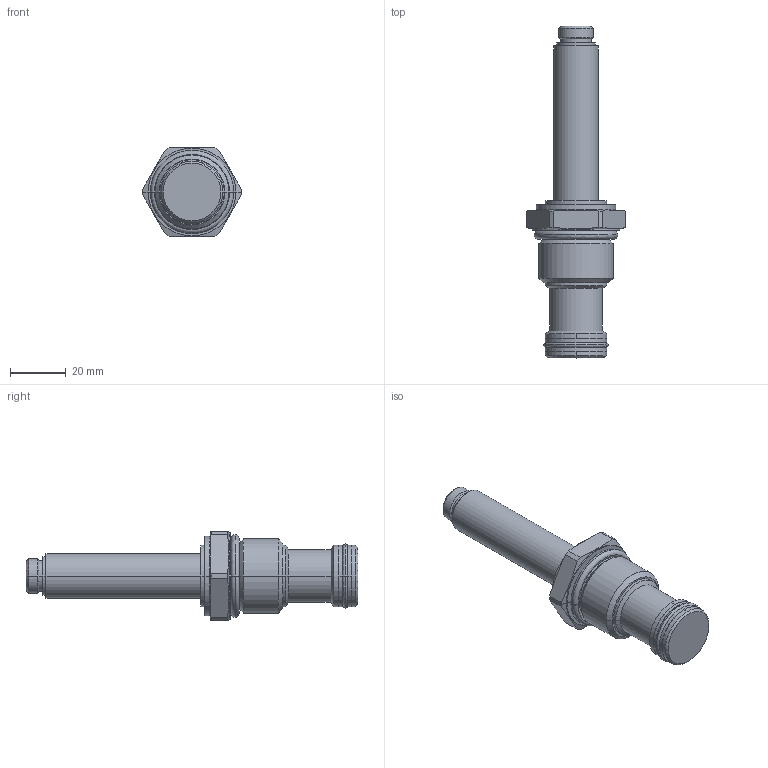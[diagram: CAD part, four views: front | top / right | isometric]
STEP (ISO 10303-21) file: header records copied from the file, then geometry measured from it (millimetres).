
FILE_DESCRIPTION((''),'2;1');
FILE_NAME('5003986_SW0003','2009-03-03T',('JCS'),(''),'PRO/ENGINEER BY PARAMETRIC TECHNOLOGY CORPORATION, 2008010','PRO/ENGINEER BY PARAMETRIC TECHNOLOGY CORPORATION, 2008010','');
FILE_SCHEMA(('CONFIG_CONTROL_DESIGN'));
Length unit declared in the file: inch
Products named in the file (1): 5003986_SW0003
Bounding box: 35.69 x 119.33 x 31.75 mm (x, y, z)
Volume: 39021.8 mm3; surface area: 11342.6 mm2
Topology: 5 solids, 5 shells, 126 faces, 276 edges, 162 vertices
Faces by surface type: cylinder 42, cone 38, plane 18, revolution 16, torus 12
Entity records: 3812 total; most frequent: CARTESIAN_POINT 948, DIRECTION 634, ORIENTED_EDGE 552, EDGE_CURVE 276, AXIS2_PLACEMENT_3D 266, VERTEX_POINT 162, CIRCLE 156, EDGE_LOOP 136
